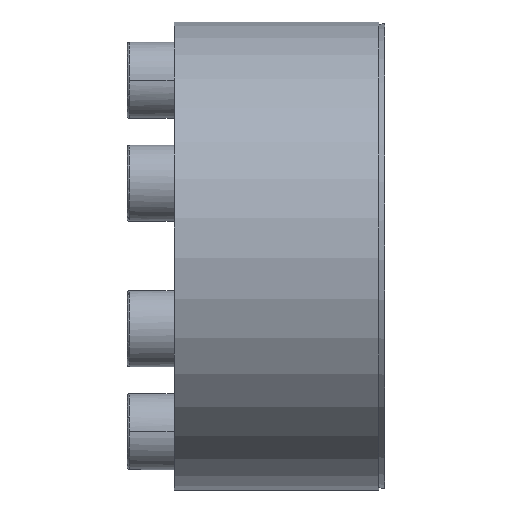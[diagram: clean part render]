
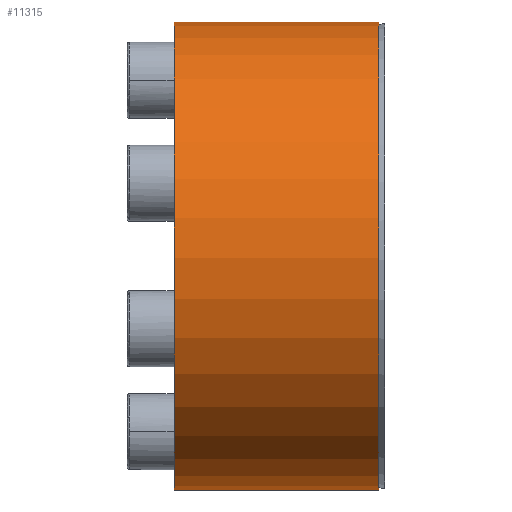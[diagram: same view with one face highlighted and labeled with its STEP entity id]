
A CAD part, left-side view. The second image highlights one B-rep face of the part: STEP entity #11315.
In plain terms, the highlighted cylindrical face has radius 40 mm (diameter 80 mm), a partial arc.
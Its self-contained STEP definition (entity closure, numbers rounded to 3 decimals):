
#114 = CARTESIAN_POINT ( 'NONE',  ( 0.8, 36.005, 39.992 ) ) ;
#320 = AXIS2_PLACEMENT_3D ( 'NONE', #8479, #1928, #9572 ) ;
#325 = VERTEX_POINT ( 'NONE', #9422 ) ;
#754 = VERTEX_POINT ( 'NONE', #114 ) ;
#1016 = CIRCLE ( 'NONE', #320, 40. ) ;
#1228 = EDGE_LOOP ( 'NONE', ( #3071, #11964, #2316, #3387 ) ) ;
#1729 = AXIS2_PLACEMENT_3D ( 'NONE', #5856, #13434, #6978 ) ;
#1928 = DIRECTION ( 'NONE',  ( 0., 1., 0. ) ) ;
#2316 = ORIENTED_EDGE ( 'NONE', *, *, #9093, .T. ) ;
#3071 = ORIENTED_EDGE ( 'NONE', *, *, #8718, .T. ) ;
#3387 = ORIENTED_EDGE ( 'NONE', *, *, #8221, .T. ) ;
#3466 = VERTEX_POINT ( 'NONE', #3753 ) ;
#3753 = CARTESIAN_POINT ( 'NONE',  ( -0.8, 36.005, 39.992 ) ) ;
#4326 = VECTOR ( 'NONE', #9726, 1000. ) ;
#4434 = DIRECTION ( 'NONE',  ( 0., 1., 0. ) ) ;
#4528 = CARTESIAN_POINT ( 'NONE',  ( 0., 48.797, 0. ) ) ;
#4671 = LINE ( 'NONE', #5419, #4326 ) ;
#5371 = AXIS2_PLACEMENT_3D ( 'NONE', #4528, #6647, #12096 ) ;
#5419 = CARTESIAN_POINT ( 'NONE',  ( 0.8, 48.797, 39.992 ) ) ;
#5856 = CARTESIAN_POINT ( 'NONE',  ( 0., 36.005, 0. ) ) ;
#6362 = CYLINDRICAL_SURFACE ( 'NONE', #5371, 40. ) ;
#6502 = EDGE_CURVE ( 'NONE', #325, #3466, #12152, .T. ) ;
#6647 = DIRECTION ( 'NONE',  ( 0., 1., 0. ) ) ;
#6978 = DIRECTION ( 'NONE',  ( 0., 0., 1. ) ) ;
#7656 = CARTESIAN_POINT ( 'NONE',  ( -0.8, 48.797, 39.992 ) ) ;
#8221 = EDGE_CURVE ( 'NONE', #754, #13515, #4671, .T. ) ;
#8479 = CARTESIAN_POINT ( 'NONE',  ( 0., 1.005, 0. ) ) ;
#8718 = EDGE_CURVE ( 'NONE', #13515, #325, #1016, .T. ) ;
#9093 = EDGE_CURVE ( 'NONE', #3466, #754, #11085, .T. ) ;
#9307 = VECTOR ( 'NONE', #4434, 1000. ) ;
#9420 = CARTESIAN_POINT ( 'NONE',  ( 0.8, 1.005, 39.992 ) ) ;
#9422 = CARTESIAN_POINT ( 'NONE',  ( -0.8, 1.005, 39.992 ) ) ;
#9572 = DIRECTION ( 'NONE',  ( 0., 0., 1. ) ) ;
#9726 = DIRECTION ( 'NONE',  ( 0., -1., 0. ) ) ;
#11085 = CIRCLE ( 'NONE', #1729, 40. ) ;
#11315 = ADVANCED_FACE ( 'NONE', ( #13135 ), #6362, .T. ) ;
#11964 = ORIENTED_EDGE ( 'NONE', *, *, #6502, .T. ) ;
#12096 = DIRECTION ( 'NONE',  ( 0., 0., 1. ) ) ;
#12152 = LINE ( 'NONE', #7656, #9307 ) ;
#13135 = FACE_OUTER_BOUND ( 'NONE', #1228, .T. ) ;
#13434 = DIRECTION ( 'NONE',  ( 0., -1., 0. ) ) ;
#13515 = VERTEX_POINT ( 'NONE', #9420 ) ;
